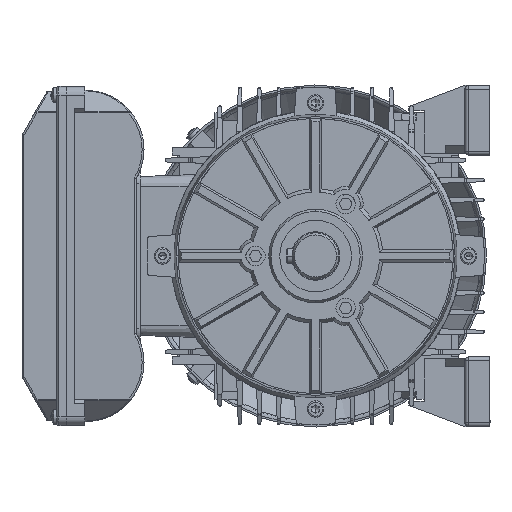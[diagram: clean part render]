
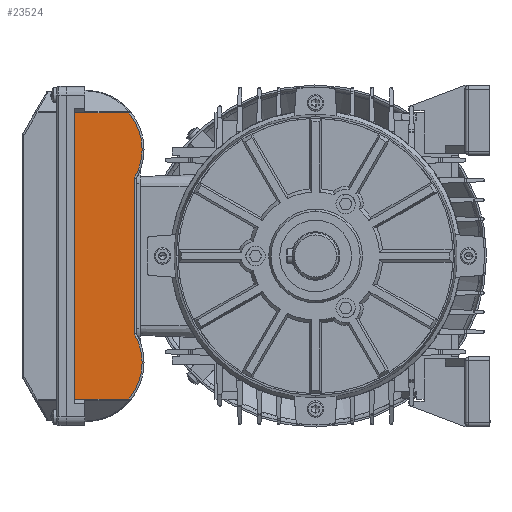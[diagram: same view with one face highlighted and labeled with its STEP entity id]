
A CAD part, left-side view. The second image highlights one B-rep face of the part: STEP entity #23524.
In plain terms, the highlighted planar face has unit normal (-1, 0, 0) as drawn and (0, 0, 1) by its records, which use the part's own axes.
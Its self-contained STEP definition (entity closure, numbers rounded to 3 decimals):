
#40 = CARTESIAN_POINT ( 'NONE',  ( 14.314, 29., 140. ) ) ;
#2058 = DIRECTION ( 'NONE',  ( 1., 0., 0. ) ) ;
#2444 = PLANE ( 'NONE',  #34260 ) ;
#2846 = CARTESIAN_POINT ( 'NONE',  ( 3., -7.5, 140. ) ) ;
#4644 = LINE ( 'NONE', #74936, #46360 ) ;
#4991 = VECTOR ( 'NONE', #81512, 1000. ) ;
#5933 = DIRECTION ( 'NONE',  ( 0., -1., 0. ) ) ;
#6470 = EDGE_CURVE ( 'NONE', #107728, #31378, #44113, .T. ) ;
#9719 = VERTEX_POINT ( 'NONE', #102247 ) ;
#10031 = CARTESIAN_POINT ( 'NONE',  ( 162.296, 29., 140. ) ) ;
#10903 = ORIENTED_EDGE ( 'NONE', *, *, #31449, .T. ) ;
#13192 = EDGE_CURVE ( 'NONE', #91066, #9719, #20886, .T. ) ;
#14757 = CIRCLE ( 'NONE', #37536, 29.5 ) ;
#14882 = EDGE_CURVE ( 'NONE', #37123, #107728, #49359, .T. ) ;
#18768 = DIRECTION ( 'NONE',  ( 0., -1., 0. ) ) ;
#19832 = CARTESIAN_POINT ( 'NONE',  ( 162.686, 29., 140. ) ) ;
#20886 = LINE ( 'NONE', #77821, #94018 ) ;
#21836 = DIRECTION ( 'NONE',  ( 0., 1., 0. ) ) ;
#23111 = CARTESIAN_POINT ( 'NONE',  ( 14.314, 29., 140. ) ) ;
#23524 = ADVANCED_FACE ( 'NONE', ( #29690 ), #2444, .T. ) ;
#26053 = EDGE_CURVE ( 'NONE', #9719, #108681, #14757, .T. ) ;
#28572 = DIRECTION ( 'NONE',  ( 1., 0., 0. ) ) ;
#29690 = FACE_OUTER_BOUND ( 'NONE', #53539, .T. ) ;
#31378 = VERTEX_POINT ( 'NONE', #19832 ) ;
#31449 = EDGE_CURVE ( 'NONE', #108681, #73007, #89851, .T. ) ;
#33095 = DIRECTION ( 'NONE',  ( 0., 0., 1. ) ) ;
#33935 = AXIS2_PLACEMENT_3D ( 'NONE', #64358, #109953, #28572 ) ;
#34260 = AXIS2_PLACEMENT_3D ( 'NONE', #2846, #75927, #2058 ) ;
#35833 = ORIENTED_EDGE ( 'NONE', *, *, #84599, .T. ) ;
#36622 = CARTESIAN_POINT ( 'NONE',  ( 48.332, 3.5, 140. ) ) ;
#36786 = CARTESIAN_POINT ( 'NONE',  ( 14.704, 29., 140. ) ) ;
#37123 = VERTEX_POINT ( 'NONE', #56787 ) ;
#37536 = AXIS2_PLACEMENT_3D ( 'NONE', #51532, #33095, #43081 ) ;
#43081 = DIRECTION ( 'NONE',  ( 1., 0., 0. ) ) ;
#44113 = LINE ( 'NONE', #88949, #48370 ) ;
#46360 = VECTOR ( 'NONE', #18768, 1000. ) ;
#46571 = VECTOR ( 'NONE', #71139, 1000. ) ;
#47023 = ORIENTED_EDGE ( 'NONE', *, *, #26053, .T. ) ;
#48370 = VECTOR ( 'NONE', #5933, 1000. ) ;
#49359 = LINE ( 'NONE', #75013, #50745 ) ;
#50745 = VECTOR ( 'NONE', #67822, 1000. ) ;
#51532 = CARTESIAN_POINT ( 'NONE',  ( 143.5, 29., 140. ) ) ;
#53311 = CARTESIAN_POINT ( 'NONE',  ( 14.314, 29., 140. ) ) ;
#53539 = EDGE_LOOP ( 'NONE', ( #47023, #10903, #98893, #91563, #72815, #92885, #69764, #96501, #35833, #85802 ) ) ;
#56787 = CARTESIAN_POINT ( 'NONE',  ( 14.314, 34.5, 140. ) ) ;
#57080 = CARTESIAN_POINT ( 'NONE',  ( 14.704, -7.5, 140. ) ) ;
#58430 = CARTESIAN_POINT ( 'NONE',  ( 162.296, 6.263, 140. ) ) ;
#62260 = EDGE_CURVE ( 'NONE', #73007, #31378, #109809, .T. ) ;
#64358 = CARTESIAN_POINT ( 'NONE',  ( 33.5, 29., 140. ) ) ;
#64363 = EDGE_CURVE ( 'NONE', #37123, #106325, #4644, .T. ) ;
#66604 = LINE ( 'NONE', #57080, #46571 ) ;
#67004 = DIRECTION ( 'NONE',  ( 1., 0., 0. ) ) ;
#67822 = DIRECTION ( 'NONE',  ( 1., 0., 0. ) ) ;
#69114 = CARTESIAN_POINT ( 'NONE',  ( 162.686, 34.5, 140. ) ) ;
#69764 = ORIENTED_EDGE ( 'NONE', *, *, #95365, .T. ) ;
#71139 = DIRECTION ( 'NONE',  ( 0., -1., 0. ) ) ;
#72691 = EDGE_CURVE ( 'NONE', #83953, #82869, #66604, .T. ) ;
#72815 = ORIENTED_EDGE ( 'NONE', *, *, #14882, .F. ) ;
#73007 = VERTEX_POINT ( 'NONE', #10031 ) ;
#74936 = CARTESIAN_POINT ( 'NONE',  ( 14.314, 34.5, 140. ) ) ;
#75013 = CARTESIAN_POINT ( 'NONE',  ( 14.314, 34.5, 140. ) ) ;
#75927 = DIRECTION ( 'NONE',  ( 0., 0., 1. ) ) ;
#77821 = CARTESIAN_POINT ( 'NONE',  ( 128.4, 3.5, 140. ) ) ;
#81512 = DIRECTION ( 'NONE',  ( 1., 0., 0. ) ) ;
#82869 = VERTEX_POINT ( 'NONE', #95123 ) ;
#83953 = VERTEX_POINT ( 'NONE', #36786 ) ;
#84599 = EDGE_CURVE ( 'NONE', #82869, #91066, #105985, .T. ) ;
#85622 = CARTESIAN_POINT ( 'NONE',  ( 162.296, -7.5, 140. ) ) ;
#85802 = ORIENTED_EDGE ( 'NONE', *, *, #13192, .T. ) ;
#86853 = LINE ( 'NONE', #40, #4991 ) ;
#88949 = CARTESIAN_POINT ( 'NONE',  ( 162.686, 34.5, 140. ) ) ;
#89851 = LINE ( 'NONE', #85622, #92639 ) ;
#91066 = VERTEX_POINT ( 'NONE', #36622 ) ;
#91563 = ORIENTED_EDGE ( 'NONE', *, *, #6470, .F. ) ;
#92639 = VECTOR ( 'NONE', #21836, 1000. ) ;
#92885 = ORIENTED_EDGE ( 'NONE', *, *, #64363, .T. ) ;
#94018 = VECTOR ( 'NONE', #67004, 1000. ) ;
#95123 = CARTESIAN_POINT ( 'NONE',  ( 14.704, 6.263, 140. ) ) ;
#95365 = EDGE_CURVE ( 'NONE', #106325, #83953, #86853, .T. ) ;
#96501 = ORIENTED_EDGE ( 'NONE', *, *, #72691, .T. ) ;
#98893 = ORIENTED_EDGE ( 'NONE', *, *, #62260, .T. ) ;
#102247 = CARTESIAN_POINT ( 'NONE',  ( 128.668, 3.5, 140. ) ) ;
#105985 = CIRCLE ( 'NONE', #33935, 29.5 ) ;
#106325 = VERTEX_POINT ( 'NONE', #53311 ) ;
#107728 = VERTEX_POINT ( 'NONE', #69114 ) ;
#108681 = VERTEX_POINT ( 'NONE', #58430 ) ;
#109809 = LINE ( 'NONE', #23111, #112658 ) ;
#109953 = DIRECTION ( 'NONE',  ( 0., 0., 1. ) ) ;
#112658 = VECTOR ( 'NONE', #114059, 1000. ) ;
#114059 = DIRECTION ( 'NONE',  ( 1., 0., 0. ) ) ;
